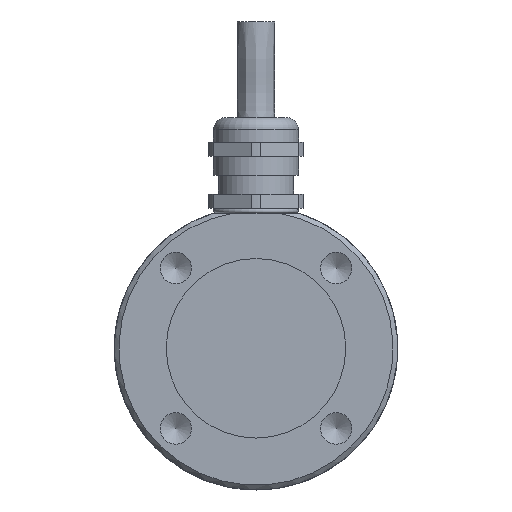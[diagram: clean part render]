
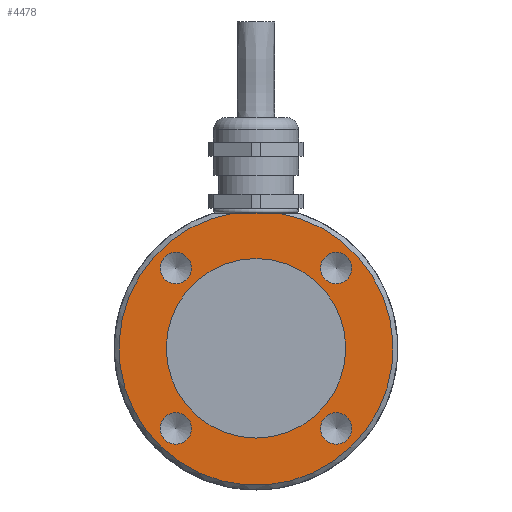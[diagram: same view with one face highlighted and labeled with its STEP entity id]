
A CAD part, left-side view. The second image highlights one B-rep face of the part: STEP entity #4478.
In plain terms, the highlighted planar face has unit normal (-1, 0, 0).
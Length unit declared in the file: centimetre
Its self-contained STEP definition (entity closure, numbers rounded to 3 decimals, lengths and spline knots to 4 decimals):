
#634=VECTOR('',#9975,1.);
#926=LINE('',#5122,#634);
#1304=PLANE('',#4829);
#1475=CIRCLE('',#4524,0.3324);
#1477=CIRCLE('',#4528,0.3324);
#1479=CIRCLE('',#4532,0.3324);
#1481=CIRCLE('',#4536,0.3324);
#1488=CIRCLE('',#4549,1.9);
#1490=CIRCLE('',#4554,2.9);
#1626=EDGE_CURVE('',#3614,#3614,#1475,.T.);
#1628=EDGE_CURVE('',#3617,#3617,#1477,.T.);
#1630=EDGE_CURVE('',#3620,#3620,#1479,.T.);
#1632=EDGE_CURVE('',#3623,#3623,#1481,.T.);
#1650=EDGE_CURVE('',#3641,#3641,#1488,.T.);
#1654=EDGE_CURVE('',#3645,#3642,#1490,.T.);
#1671=EDGE_CURVE('',#3645,#3642,#926,.T.);
#3142=ORIENTED_EDGE('',*,*,#1626,.T.);
#3143=ORIENTED_EDGE('',*,*,#1628,.T.);
#3144=ORIENTED_EDGE('',*,*,#1630,.T.);
#3145=ORIENTED_EDGE('',*,*,#1632,.T.);
#3146=ORIENTED_EDGE('',*,*,#1650,.T.);
#3147=ORIENTED_EDGE('',*,*,#1654,.F.);
#3148=ORIENTED_EDGE('',*,*,#1671,.T.);
#3546=EDGE_LOOP('',(#3142));
#3547=EDGE_LOOP('',(#3143));
#3548=EDGE_LOOP('',(#3144));
#3549=EDGE_LOOP('',(#3145));
#3550=EDGE_LOOP('',(#3146));
#3551=EDGE_LOOP('',(#3147,#3148));
#3614=VERTEX_POINT('',#4889);
#3617=VERTEX_POINT('',#4896);
#3620=VERTEX_POINT('',#4903);
#3623=VERTEX_POINT('',#4910);
#3641=VERTEX_POINT('',#5077);
#3642=VERTEX_POINT('',#5084);
#3645=VERTEX_POINT('',#5091);
#4222=FACE_BOUND('',#3546,.T.);
#4223=FACE_BOUND('',#3547,.T.);
#4224=FACE_BOUND('',#3548,.T.);
#4225=FACE_BOUND('',#3549,.T.);
#4226=FACE_BOUND('',#3550,.T.);
#4227=FACE_BOUND('',#3551,.T.);
#4478=ADVANCED_FACE('',(#4222,#4223,#4224,#4225,#4226,#4227),#1304,.T.);
#4524=AXIS2_PLACEMENT_3D('',#4888,#9892,#9893);
#4528=AXIS2_PLACEMENT_3D('',#4895,#9900,#9901);
#4532=AXIS2_PLACEMENT_3D('',#4902,#9908,#9909);
#4536=AXIS2_PLACEMENT_3D('',#4909,#9916,#9917);
#4549=AXIS2_PLACEMENT_3D('',#5076,#9940,#9941);
#4554=AXIS2_PLACEMENT_3D('',#5092,#9949,#9950);
#4829=AXIS2_PLACEMENT_3D('',#9481,#10655,$);
#4888=CARTESIAN_POINT('',(0.,-1.6971,-1.6971));
#4889=CARTESIAN_POINT('',(0.,-1.6971,-1.3647));
#4895=CARTESIAN_POINT('',(0.,-1.6971,1.6971));
#4896=CARTESIAN_POINT('',(0.,-1.6971,2.0294));
#4902=CARTESIAN_POINT('',(0.,1.6971,1.6971));
#4903=CARTESIAN_POINT('',(0.,1.6971,2.0294));
#4909=CARTESIAN_POINT('',(0.,1.6971,-1.6971));
#4910=CARTESIAN_POINT('',(0.,1.6971,-1.3647));
#5076=CARTESIAN_POINT('',(0.,0.,0.));
#5077=CARTESIAN_POINT('',(0.,0.,1.9));
#5084=CARTESIAN_POINT('',(0.,0.469,2.8618));
#5091=CARTESIAN_POINT('',(0.,-0.469,2.8618));
#5092=CARTESIAN_POINT('',(0.,0.,0.));
#5122=CARTESIAN_POINT('',(0.,2.775,2.8618));
#9481=CARTESIAN_POINT('',(0.,0.,-1.5));
#9892=DIRECTION('',(1.,0.,0.));
#9893=DIRECTION('',(0.,0.,0.332));
#9900=DIRECTION('',(1.,0.,0.));
#9901=DIRECTION('',(0.,0.,0.332));
#9908=DIRECTION('',(1.,0.,0.));
#9909=DIRECTION('',(0.,0.,0.332));
#9916=DIRECTION('',(1.,0.,0.));
#9917=DIRECTION('',(0.,0.,0.332));
#9940=DIRECTION('',(1.,0.,0.));
#9941=DIRECTION('',(0.,0.,1.9));
#9949=DIRECTION('',(1.,0.,0.));
#9950=DIRECTION('',(0.,0.,-2.9));
#9975=DIRECTION('',(0.,1.,0.));
#10655=DIRECTION('',(-1.,0.,0.));
